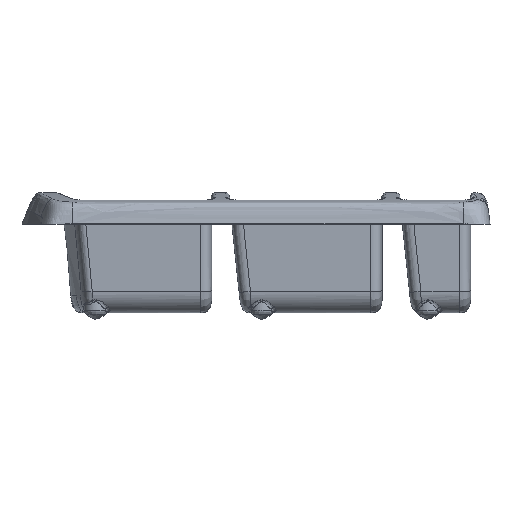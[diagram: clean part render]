
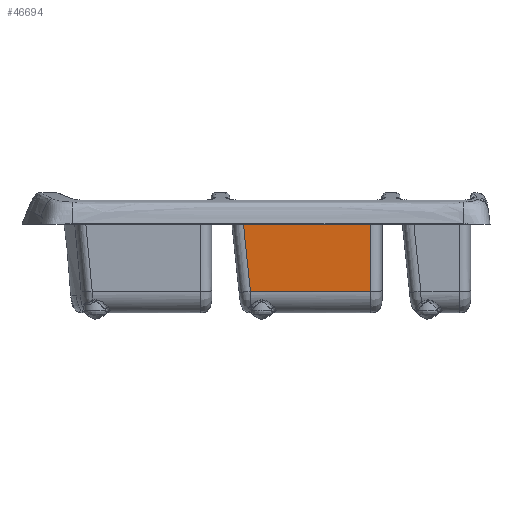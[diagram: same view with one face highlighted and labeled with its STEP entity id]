
A CAD part, left-side view. The second image highlights one B-rep face of the part: STEP entity #46694.
In plain terms, the highlighted planar face has unit normal (-0.999, 0, -0.052).
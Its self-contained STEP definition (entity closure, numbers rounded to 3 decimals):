
#4611 = CARTESIAN_POINT ( 'NONE',  ( -242.401, -193., 285.097 ) ) ;
#7024 = VECTOR ( 'NONE', #27254, 1000. ) ;
#9182 = CARTESIAN_POINT ( 'NONE',  ( -243.704, -218., 309.948 ) ) ;
#19874 = EDGE_LOOP ( 'NONE', ( #52989, #38124, #83847, #141118 ) ) ;
#21806 = CARTESIAN_POINT ( 'NONE',  ( -242.401, 99.47, 285.097 ) ) ;
#24693 = EDGE_CURVE ( 'NONE', #73048, #149353, #133234, .T. ) ;
#25079 = CARTESIAN_POINT ( 'NONE',  ( -238.946, -193., 219.175 ) ) ;
#27254 = DIRECTION ( 'NONE',  ( 0., -1., 0. ) ) ;
#38124 = ORIENTED_EDGE ( 'NONE', *, *, #101469, .T. ) ;
#41113 = CARTESIAN_POINT ( 'NONE',  ( -232.037, 78.684, 87.331 ) ) ;
#43891 = VECTOR ( 'NONE', #106568, 1000. ) ;
#46001 = DIRECTION ( 'NONE',  ( 0.999, 0., 0.052 ) ) ;
#46694 = ADVANCED_FACE ( 'NONE', ( #166867 ), #88870, .F. ) ;
#47537 = CARTESIAN_POINT ( 'NONE',  ( -232.037, -193., 87.331 ) ) ;
#48762 = CARTESIAN_POINT ( 'NONE',  ( -232.037, -193., 87.331 ) ) ;
#51876 = AXIS2_PLACEMENT_3D ( 'NONE', #9182, #46001, #74000 ) ;
#52989 = ORIENTED_EDGE ( 'NONE', *, *, #124215, .T. ) ;
#59072 = B_SPLINE_CURVE_WITH_KNOTS ( 'NONE', 3,
 ( #73306, #99592, #153023, #126752 ),
 .UNSPECIFIED., .F., .F.,
 ( 4, 4 ),
 ( 0., 1. ),
 .UNSPECIFIED. ) ;
#73048 = VERTEX_POINT ( 'NONE', #41113 ) ;
#73306 = CARTESIAN_POINT ( 'NONE',  ( -242.401, 99.47, 285.097 ) ) ;
#74000 = DIRECTION ( 'NONE',  ( 0., -1., 0. ) ) ;
#83847 = ORIENTED_EDGE ( 'NONE', *, *, #108796, .T. ) ;
#88870 = PLANE ( 'NONE',  #51876 ) ;
#99592 = CARTESIAN_POINT ( 'NONE',  ( -238.946, 92.542, 219.175 ) ) ;
#101469 = EDGE_CURVE ( 'NONE', #142217, #120504, #120577, .T. ) ;
#106568 = DIRECTION ( 'NONE',  ( 0., 1., 0. ) ) ;
#108796 = EDGE_CURVE ( 'NONE', #120504, #73048, #59072, .T. ) ;
#120504 = VERTEX_POINT ( 'NONE', #21806 ) ;
#120577 = LINE ( 'NONE', #145980, #43891 ) ;
#124215 = EDGE_CURVE ( 'NONE', #149353, #142217, #169384, .T. ) ;
#126752 = CARTESIAN_POINT ( 'NONE',  ( -232.037, 78.684, 87.331 ) ) ;
#133234 = LINE ( 'NONE', #147230, #7024 ) ;
#141118 = ORIENTED_EDGE ( 'NONE', *, *, #24693, .T. ) ;
#142217 = VERTEX_POINT ( 'NONE', #4611 ) ;
#142473 = CARTESIAN_POINT ( 'NONE',  ( -235.492, -193., 153.253 ) ) ;
#145980 = CARTESIAN_POINT ( 'NONE',  ( -242.401, -488.007, 285.097 ) ) ;
#147230 = CARTESIAN_POINT ( 'NONE',  ( -232.037, 0., 87.331 ) ) ;
#149353 = VERTEX_POINT ( 'NONE', #47537 ) ;
#153023 = CARTESIAN_POINT ( 'NONE',  ( -235.492, 85.613, 153.253 ) ) ;
#158202 = CARTESIAN_POINT ( 'NONE',  ( -242.401, -193., 285.097 ) ) ;
#166867 = FACE_OUTER_BOUND ( 'NONE', #19874, .T. ) ;
#169384 = B_SPLINE_CURVE_WITH_KNOTS ( 'NONE', 3,
 ( #48762, #142473, #25079, #158202 ),
 .UNSPECIFIED., .F., .F.,
 ( 4, 4 ),
 ( 0., 1. ),
 .UNSPECIFIED. ) ;
